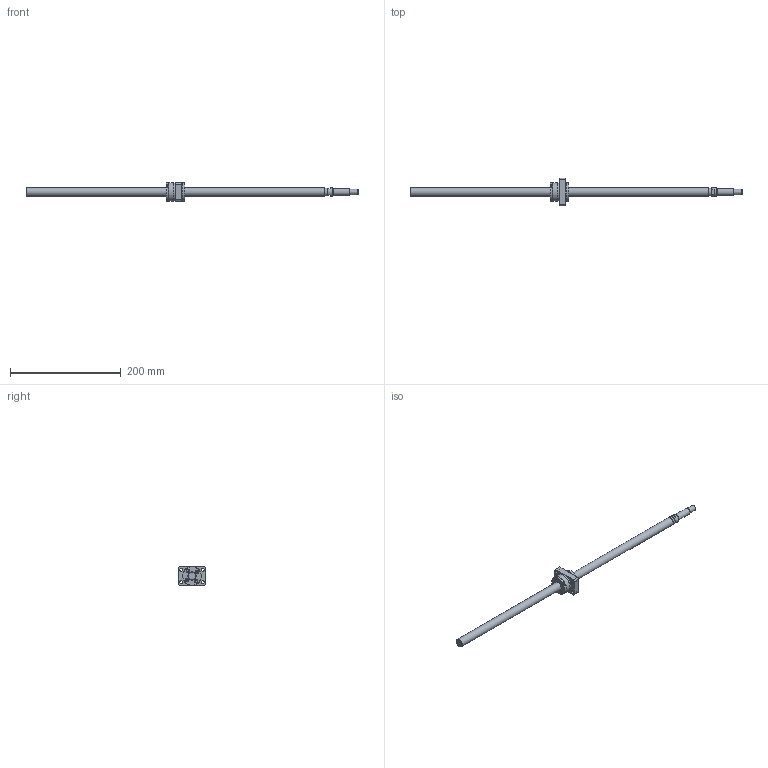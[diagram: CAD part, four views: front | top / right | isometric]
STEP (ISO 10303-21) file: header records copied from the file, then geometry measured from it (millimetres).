
FILE_DESCRIPTION(/* description */ ('STEP AP214'),/* implementation_level */ '2;1');
FILE_NAME(/* name */ 'SG1505 -540R600C5A0X(253.5)',/* time_stamp */ '2026-07-24T21:02:36+02:00',/* author */ ('License CC BY-ND 4.0'),/* organization */ ('CADENAS'),/* preprocessor_version */ 'ST-DEVELOPER v20',/* originating_system */ 'PARTsolutions',/* authorisation */ ' ');
FILE_SCHEMA (('AUTOMOTIVE_DESIGN {1 0 10303 214 3 1 1}'));
Length unit declared in the file: millimetre
Products named in the file (3): SG1505 -540R600C5A0X(253.5); SG1505-540R600C5A_shaft; SG1505  C5_nut
Assembly tree (2 placements, depth 2):
  SG1505 -540R600C5A0X(253.5)
    SG1505-540R600C5A_shaft
    SG1505  C5_nut
Bounding box: 600 x 50 x 34 mm (x, y, z)
Volume: 132419.9 mm3; surface area: 38023.6 mm2
Topology: 2 solids, 2 shells, 114 faces, 257 edges, 166 vertices
Faces by surface type: plane 73, cylinder 33, cone 7, torus 1
Full cylindrical faces by diameter (mm): 2 x1, 4.917 x1, 5.5 x8, 9.5 x4, 10 x1, 12 x1, 14.387 x1, 15 x3, 33.5 x3, 34 x2
Entity records: 3094 total; most frequent: DIRECTION 540, CARTESIAN_POINT 511, ORIENTED_EDGE 442, EDGE_CURVE 221, AXIS2_PLACEMENT_3D 203, EDGE_LOOP 178, FACE_BOUND 178, VERTEX_POINT 163
